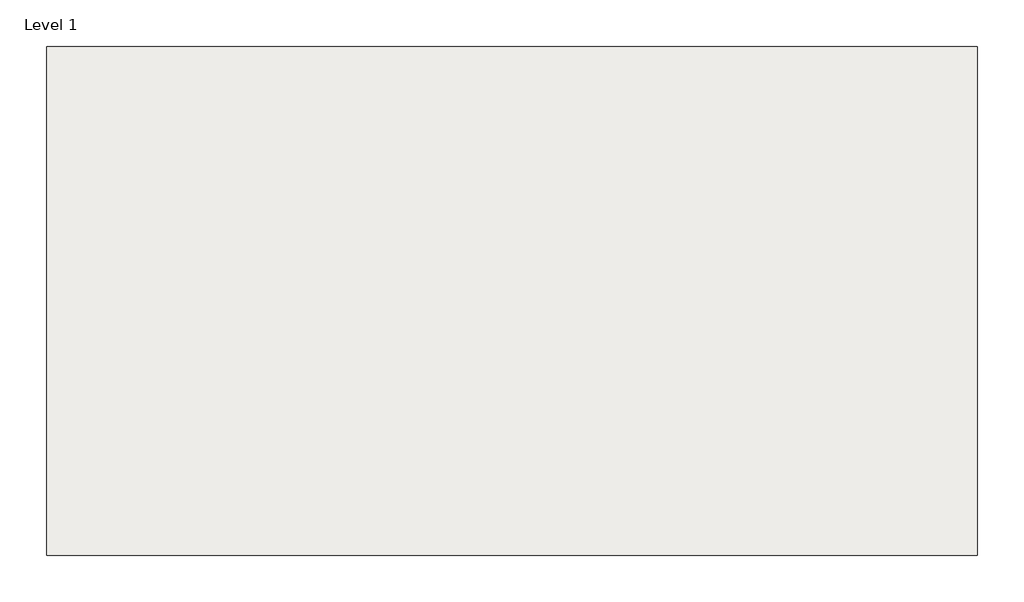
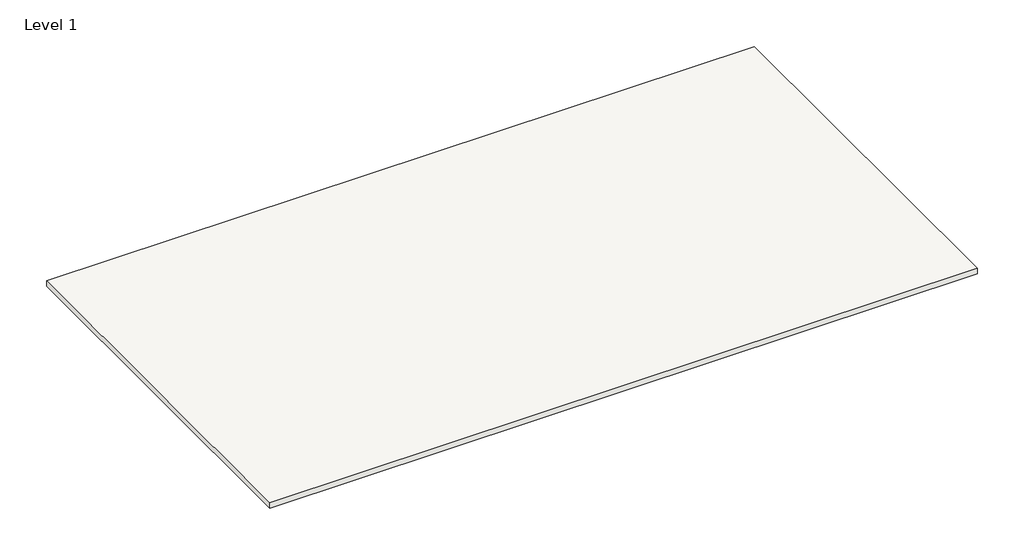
# One storey, incomplete: 1 slab.
"""IFC4 building model written with IfcOpenShell, lengths in millimetres."""

import ifcopenshell
import ifcopenshell.guid

model = None  # the IFC model being written
_history = None  # IfcOwnerHistory: only IFC2X3 demands one
_inside = {}  # id of a spatial element -> (the spatial element, [elements in it])
_under = {}  # id of a project, library or spatial element -> (it, [spatial elements below it])
_declared = {}  # id of a project -> (the project, [libraries it declares])
_typed = {}  # id of a type object -> (the type object, [elements of that type])
_made_of = {}  # id of a material, layer set ... -> (it, [elements and type objects made of it])


def new_model(schema):
    """Start an empty IFC model of exactly this schema.

    Asked for "IFC4X3", IfcOpenShell would pick the latest addendum, in which some entities
    have other attributes; the version numbers below select the first issue.
    IFC2X3 requires an IfcOwnerHistory on every rooted entity: one is made here for all.
    """
    global model, _history
    if schema == "IFC4X3":
        model = ifcopenshell.file(schema_version=(4, 3, 0, 0))
    else:
        model = ifcopenshell.file(schema=schema)
    _inside.clear()
    _under.clear()
    _declared.clear()
    _typed.clear()
    _made_of.clear()
    _history = None
    if model.schema == "IFC2X3":
        org = make("IfcOrganization", Name="unknown")
        user = make(
            "IfcPersonAndOrganization",
            ThePerson=make("IfcPerson", FamilyName="unknown"),
            TheOrganization=org,
        )
        app = make(
            "IfcApplication",
            ApplicationDeveloper=org,
            Version="unknown",
            ApplicationFullName="unknown",
            ApplicationIdentifier="unknown",
        )
        _history = make(
            "IfcOwnerHistory",
            OwningUser=user,
            OwningApplication=app,
            ChangeAction="ADDED",
            CreationDate=0,
        )
    return model


def make(cls, **values):
    """One entity of the class cls with the attributes given. An attribute that is None is left unset."""
    return model.create_entity(
        cls, **{name: value for name, value in values.items() if value is not None}
    )


def rooted(cls, **values):
    """An entity with a GlobalId (a new one), such as an element, a storey or a relation."""
    return make(cls, GlobalId=ifcopenshell.guid.new(), OwnerHistory=_history, **values)


def si_unit(unit_type, name, prefix=None):
    """IfcSIUnit, for example si_unit("LENGTHUNIT", "METRE", prefix="MILLI")."""
    return make("IfcSIUnit", UnitType=unit_type, Prefix=prefix, Name=name)


def assignment(units):
    """IfcUnitAssignment: the units of a project."""
    return None if units is None else make("IfcUnitAssignment", Units=units)


def point(xyz):
    """IfcCartesianPoint."""
    return None if xyz is None else make("IfcCartesianPoint", Coordinates=xyz)


def direction(xyz):
    """IfcDirection."""
    return None if xyz is None else make("IfcDirection", DirectionRatios=xyz)


def frame(location, z_axis=None, x_axis=None):
    """IfcAxis2Placement3D, a coordinate frame: its origin and axes. An axis left out is left unset."""
    return make(
        "IfcAxis2Placement3D",
        Location=point(location),
        Axis=direction(z_axis),
        RefDirection=direction(x_axis),
    )


def origin():
    """The frame at (0, 0, 0) with its axes left unset."""
    return frame((0.0, 0.0, 0.0))


def place(relative_to, where):
    """IfcLocalPlacement: puts the frame where relative to a parent placement (None: the world)."""
    return make(
        "IfcLocalPlacement", PlacementRelTo=relative_to, RelativePlacement=where
    )


def context(
    kind, dimensions, precision=None, world=None, true_north=None, identifier=None
):
    """IfcGeometricRepresentationContext, for example the 3D "Model" context."""
    return make(
        "IfcGeometricRepresentationContext",
        ContextIdentifier=identifier,
        ContextType=kind,
        CoordinateSpaceDimension=dimensions,
        Precision=precision,
        WorldCoordinateSystem=world,
        TrueNorth=true_north,
    )


def project(units=None, contexts=None):
    """IfcProject with its units and contexts."""
    return rooted(
        "IfcProject",
        Name="project",
        RepresentationContexts=contexts,
        UnitsInContext=assignment(units),
    )


def spatial(cls, under=None, at=None, **own):
    """A site, building, storey or space (cls), placed at a placement, below another one or the project."""
    s = rooted(cls, ObjectPlacement=at, **own)
    if under is not None:
        _under.setdefault(under.id(), (under, []))[1].append(s)
    return s


def polyline(points):
    """IfcPolyline through the points."""
    return make("IfcPolyline", Points=[point(p) for p in points])


def outline(outer, holes=None, kind="AREA"):
    """IfcArbitraryClosedProfileDef: a profile drawn as a closed curve; with holes, ...WithVoids."""
    if holes is None:
        return make("IfcArbitraryClosedProfileDef", ProfileType=kind, OuterCurve=outer)
    return make(
        "IfcArbitraryProfileDefWithVoids",
        ProfileType=kind,
        OuterCurve=outer,
        InnerCurves=holes,
    )


def extrude(swept, where, along, depth):
    """IfcExtrudedAreaSolid: the profile swept, set in the frame where, extruded along a direction by depth."""
    return make(
        "IfcExtrudedAreaSolid",
        SweptArea=swept,
        Position=where,
        ExtrudedDirection=direction(along),
        Depth=depth,
    )


def shape(context_of_items, identifier, shape_type, items):
    """IfcShapeRepresentation: the items that make up one representation, for example the "Body"."""
    return make(
        "IfcShapeRepresentation",
        ContextOfItems=context_of_items,
        RepresentationIdentifier=identifier,
        RepresentationType=shape_type,
        Items=items,
    )


def made_of(thing, what):
    """Note that an element or type object is made of a material, layer set ...; save() writes the relation."""
    if what is not None:
        _made_of.setdefault(what.id(), (what, []))[1].append(thing)
    return thing


def element(
    cls,
    number,
    at=None,
    inside=None,
    cuts=None,
    type_object=None,
    material=None,
    context=None,
    identifier="Body",
    shape_type=None,
    held_by="IfcProductDefinitionShape",
    body=None,
    shapes=None,
    **own,
):
    """One element of the class cls, such as IfcWall. Its Tag is "e" and its number.

    at: its placement. inside: the storey or other place that contains it. cuts: it is an
    opening in that element (IfcRelVoidsElement). A single representation is given by context,
    identifier, shape_type and body (its items); several are given by shapes. held_by: the class
    of the entity that holds the representations. save() writes the other relations.
    """
    e = rooted(cls, Tag="e%d" % number, ObjectPlacement=at, **own)
    if body is not None:
        shapes = [shape(context, identifier, shape_type, body)]
    if shapes is not None:
        e.Representation = make(held_by, Representations=shapes)
    if inside is not None:
        _inside.setdefault(inside.id(), (inside, []))[1].append(e)
    if cuts is not None:
        rooted(
            "IfcRelVoidsElement", RelatingBuildingElement=cuts, RelatedOpeningElement=e
        )
    if type_object is not None:
        _typed.setdefault(type_object.id(), (type_object, []))[1].append(e)
    return made_of(e, material)


def aggregate(whole, parts):
    """IfcRelAggregates: a whole, such as a stair, and the parts it consists of."""
    return rooted("IfcRelAggregates", RelatingObject=whole, RelatedObjects=parts)


def save(model, path):
    """Write the relations noted so far, then the file.

    IfcRelAggregates (storeys below a building ...), IfcRelContainedInSpatialStructure (elements
    in a storey), IfcRelDefinesByType, IfcRelAssociatesMaterial and IfcRelDeclares: one each for
    every whole, place, type object, material and project.
    """
    for whole, parts in _under.values():
        aggregate(whole, parts)
    for where, things in _inside.values():
        rooted(
            "IfcRelContainedInSpatialStructure",
            RelatedElements=things,
            RelatingStructure=where,
        )
    for kind, things in _typed.values():
        rooted("IfcRelDefinesByType", RelatedObjects=things, RelatingType=kind)
    for what, things in _made_of.values():
        rooted("IfcRelAssociatesMaterial", RelatedObjects=things, RelatingMaterial=what)
    for by, libraries in _declared.values():
        rooted("IfcRelDeclares", RelatingContext=by, RelatedDefinitions=libraries)
    model.write(path)


model = new_model("IFC4")

# Units and contexts
model_context = context("Model", 3, world=origin())
ifc_project = project(units=[si_unit("LENGTHUNIT", "METRE", prefix="MILLI")], contexts=[model_context])

# Site, building, storey
site = spatial("IfcSite", under=ifc_project)
building = spatial("IfcBuilding", under=site)
storey = spatial("IfcBuildingStorey", under=building, Name="Level 1", Elevation=0.0)

# Slab
placement = place(None, origin())
element("IfcSlab", 1, ObjectType="Generic - 12\"", at=placement, inside=storey, context=model_context, shape_type="SweptSolid", body=[
    extrude(outline(polyline([(19451.5757994, 27537.2598675), (19451.5757994, 6592.7839876), (-18848.4242006, 6592.7839876), (-18848.4242006, 27537.2598675), (19451.5757994, 27537.2598675)])), frame((0.0, 0.0, -304.8), z_axis=(0.0, 0.0, 1.0), x_axis=(1.0, 0.0, 0.0)), (0.0, 0.0, 1.0), 304.8),
])

save(model, "model.ifc")
